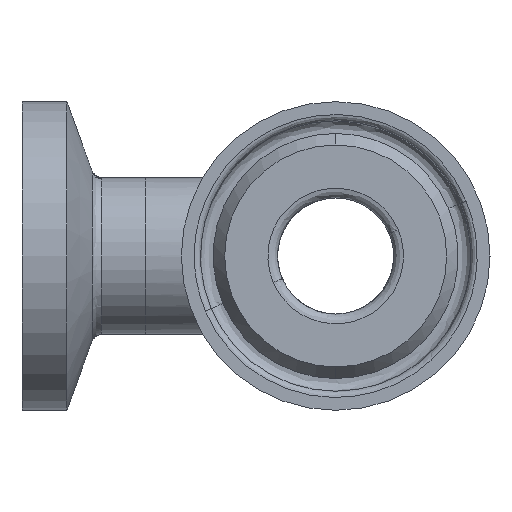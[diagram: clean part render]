
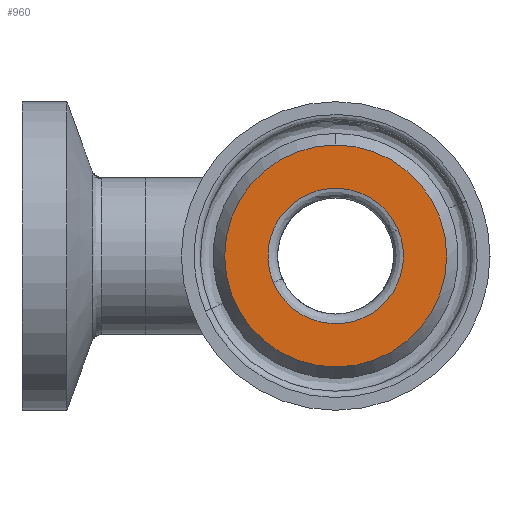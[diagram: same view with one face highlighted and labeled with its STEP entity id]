
A CAD part, left-side view. The second image highlights one B-rep face of the part: STEP entity #960.
In plain terms, the highlighted planar face has unit normal (-1, 0, 0).
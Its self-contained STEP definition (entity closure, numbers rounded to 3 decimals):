
#68 = AXIS2_PLACEMENT_3D ( 'NONE', #2000, #2627, #1123 ) ;
#98 = CARTESIAN_POINT ( 'NONE',  ( -56.413, -9.32, -7.978 ) ) ;
#324 = CARTESIAN_POINT ( 'NONE',  ( -56.413, 0., -8.987 ) ) ;
#359 = VERTEX_POINT ( 'NONE', #406 ) ;
#381 = ORIENTED_EDGE ( 'NONE', *, *, #2054, .F. ) ;
#406 = CARTESIAN_POINT ( 'NONE',  ( -56.413, 5.055, -2.132 ) ) ;
#673 = CARTESIAN_POINT ( 'NONE',  ( -56.413, 5.055, -2.132 ) ) ;
#675 = AXIS2_PLACEMENT_3D ( 'NONE', #2643, #2672, #2727 ) ;
#682 = VERTEX_POINT ( 'NONE', #1467 ) ;
#694 = CIRCLE ( 'NONE', #675, 8.987 ) ;
#793 = EDGE_LOOP ( 'NONE', ( #1940, #381 ) ) ;
#824 = VERTEX_POINT ( 'NONE', #324 ) ;
#841 = EDGE_CURVE ( 'NONE', #359, #682, #1607, .T. ) ;
#898 = CARTESIAN_POINT ( 'NONE',  ( -56.413, -0.79, 12.242 ) ) ;
#960 = ADVANCED_FACE ( 'NONE', ( #1639, #2775 ), #2214, .F. ) ;
#1000 = VERTEX_POINT ( 'NONE', #1735 ) ;
#1025 = ORIENTED_EDGE ( 'NONE', *, *, #1080, .F. ) ;
#1080 = EDGE_CURVE ( 'NONE', #682, #359, #1817, .T. ) ;
#1099 = CARTESIAN_POINT ( 'NONE',  ( -56.413, -5.055, 2.132 ) ) ;
#1123 = DIRECTION ( 'NONE',  ( 0., 0., -1. ) ) ;
#1358 = EDGE_CURVE ( 'NONE', #824, #1000, #694, .T. ) ;
#1370 = CARTESIAN_POINT ( 'NONE',  ( -56.413, -5.055, 2.132 ) ) ;
#1422 = EDGE_LOOP ( 'NONE', ( #1025, #1720 ) ) ;
#1467 = CARTESIAN_POINT ( 'NONE',  ( -56.413, -5.055, 2.132 ) ) ;
#1537 = CARTESIAN_POINT ( 'NONE',  ( -56.413, 0., 0. ) ) ;
#1555 = DIRECTION ( 'NONE',  ( 1., 0., 0. ) ) ;
#1568 = DIRECTION ( 'NONE',  ( 0., 0., -1. ) ) ;
#1607 =( BOUNDED_CURVE ( )  B_SPLINE_CURVE ( 3, ( #2243, #2034, #98, #1370 ),
 .UNSPECIFIED., .F., .T. ) 
 B_SPLINE_CURVE_WITH_KNOTS ( ( 4, 4 ),
 ( 0., 1. ),
 .UNSPECIFIED. ) 
 CURVE ( )  GEOMETRIC_REPRESENTATION_ITEM ( )  RATIONAL_B_SPLINE_CURVE ( ( 1., 0.333, 0.333, 1. ) ) 
 REPRESENTATION_ITEM ( '' )  );
#1639 = FACE_OUTER_BOUND ( 'NONE', #793, .T. ) ;
#1720 = ORIENTED_EDGE ( 'NONE', *, *, #841, .F. ) ;
#1735 = CARTESIAN_POINT ( 'NONE',  ( -56.413, 0., 8.987 ) ) ;
#1770 = CIRCLE ( 'NONE', #2333, 8.987 ) ;
#1817 =( BOUNDED_CURVE ( )  B_SPLINE_CURVE ( 3, ( #1099, #898, #1967, #673 ),
 .UNSPECIFIED., .F., .T. ) 
 B_SPLINE_CURVE_WITH_KNOTS ( ( 4, 4 ),
 ( 0., 1. ),
 .UNSPECIFIED. ) 
 CURVE ( )  GEOMETRIC_REPRESENTATION_ITEM ( )  RATIONAL_B_SPLINE_CURVE ( ( 1., 0.333, 0.333, 1. ) ) 
 REPRESENTATION_ITEM ( '' )  );
#1940 = ORIENTED_EDGE ( 'NONE', *, *, #1358, .F. ) ;
#1967 = CARTESIAN_POINT ( 'NONE',  ( -56.413, 9.32, 7.978 ) ) ;
#2000 = CARTESIAN_POINT ( 'NONE',  ( -56.413, -2.132, -5.055 ) ) ;
#2034 = CARTESIAN_POINT ( 'NONE',  ( -56.413, 0.79, -12.242 ) ) ;
#2054 = EDGE_CURVE ( 'NONE', #1000, #824, #1770, .T. ) ;
#2214 = PLANE ( 'NONE',  #68 ) ;
#2243 = CARTESIAN_POINT ( 'NONE',  ( -56.413, 5.055, -2.132 ) ) ;
#2333 = AXIS2_PLACEMENT_3D ( 'NONE', #1537, #1555, #1568 ) ;
#2627 = DIRECTION ( 'NONE',  ( 1., 0., 0. ) ) ;
#2643 = CARTESIAN_POINT ( 'NONE',  ( -56.413, 0., 0. ) ) ;
#2672 = DIRECTION ( 'NONE',  ( 1., 0., 0. ) ) ;
#2727 = DIRECTION ( 'NONE',  ( 0., 0., -1. ) ) ;
#2775 = FACE_BOUND ( 'NONE', #1422, .T. ) ;
